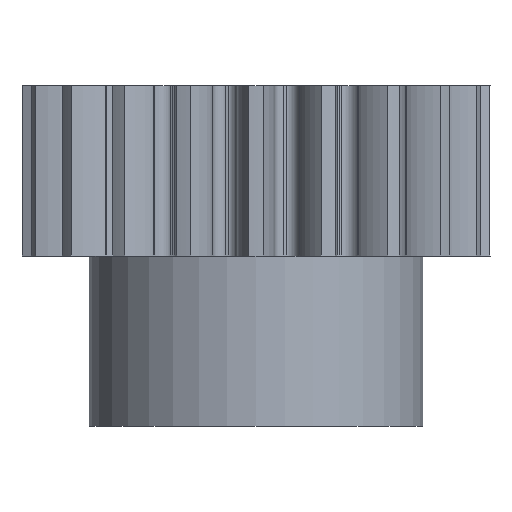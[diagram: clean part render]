
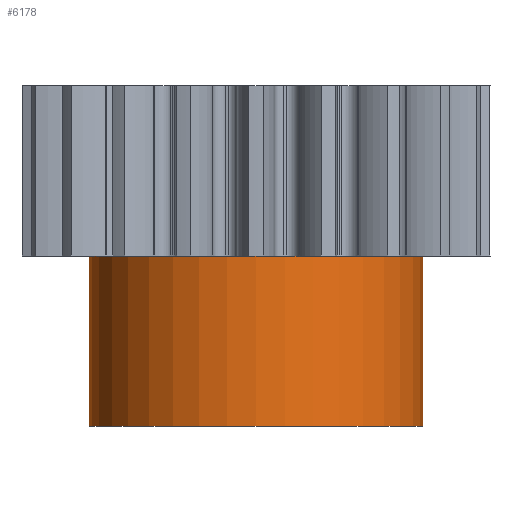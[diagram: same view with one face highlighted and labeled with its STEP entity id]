
A CAD part, front view. The second image highlights one B-rep face of the part: STEP entity #6178.
In plain terms, the highlighted cylindrical face has radius 6.223 mm (diameter 12.446 mm), a partial arc.
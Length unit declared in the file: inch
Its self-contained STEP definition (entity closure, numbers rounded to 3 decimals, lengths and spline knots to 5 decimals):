
#1992 = DIRECTION ( 'NONE',  ( -1., 0., 0. ) ) ;
#2017 = DIRECTION ( 'NONE',  ( 1., 0., 0. ) ) ;
#3910 = CIRCLE ( 'NONE', #18657, 0.245 ) ;
#4239 = ORIENTED_EDGE ( 'NONE', *, *, #11511, .T. ) ;
#4697 = VERTEX_POINT ( 'NONE', #12927 ) ;
#5117 = DIRECTION ( 'NONE',  ( 0., 0., -1. ) ) ;
#6110 = CARTESIAN_POINT ( 'NONE',  ( -0.245, 0., -0.25 ) ) ;
#6178 = ADVANCED_FACE ( 'NONE', ( #11613 ), #12078, .T. ) ;
#6433 = DIRECTION ( 'NONE',  ( 0., 0., -1. ) ) ;
#6507 = EDGE_CURVE ( 'NONE', #7926, #15535, #15950, .T. ) ;
#6752 = ORIENTED_EDGE ( 'NONE', *, *, #18623, .F. ) ;
#6958 = DIRECTION ( 'NONE',  ( 0., 0., 1. ) ) ;
#7472 = LINE ( 'NONE', #6110, #18726 ) ;
#7541 = DIRECTION ( 'NONE',  ( 0., 0., 1. ) ) ;
#7799 = AXIS2_PLACEMENT_3D ( 'NONE', #8048, #13913, #2017 ) ;
#7926 = VERTEX_POINT ( 'NONE', #17728 ) ;
#8022 = DIRECTION ( 'NONE',  ( -1., 0., 0. ) ) ;
#8048 = CARTESIAN_POINT ( 'NONE',  ( 0., 0., -0.25 ) ) ;
#9307 = CARTESIAN_POINT ( 'NONE',  ( 0., 0., 0. ) ) ;
#9374 = CARTESIAN_POINT ( 'NONE',  ( 0., 0., -0.25 ) ) ;
#9933 = CARTESIAN_POINT ( 'NONE',  ( 0.245, 0., 0. ) ) ;
#9965 = VECTOR ( 'NONE', #6958, 39.37008 ) ;
#9970 = CARTESIAN_POINT ( 'NONE',  ( 0.245, 0., -0.25 ) ) ;
#11143 = EDGE_CURVE ( 'NONE', #4697, #17807, #7472, .T. ) ;
#11187 = AXIS2_PLACEMENT_3D ( 'NONE', #9374, #5117, #8022 ) ;
#11511 = EDGE_CURVE ( 'NONE', #15535, #17807, #3910, .T. ) ;
#11613 = FACE_OUTER_BOUND ( 'NONE', #12774, .T. ) ;
#12078 = CYLINDRICAL_SURFACE ( 'NONE', #7799, 0.245 ) ;
#12774 = EDGE_LOOP ( 'NONE', ( #13505, #6752, #18115, #4239 ) ) ;
#12927 = CARTESIAN_POINT ( 'NONE',  ( -0.245, 0., -0.25 ) ) ;
#13505 = ORIENTED_EDGE ( 'NONE', *, *, #11143, .F. ) ;
#13913 = DIRECTION ( 'NONE',  ( 0., 0., 1. ) ) ;
#14724 = CIRCLE ( 'NONE', #11187, 0.245 ) ;
#15535 = VERTEX_POINT ( 'NONE', #9933 ) ;
#15950 = LINE ( 'NONE', #9970, #9965 ) ;
#16664 = CARTESIAN_POINT ( 'NONE',  ( -0.245, 0., 0. ) ) ;
#17728 = CARTESIAN_POINT ( 'NONE',  ( 0.245, 0., -0.25 ) ) ;
#17807 = VERTEX_POINT ( 'NONE', #16664 ) ;
#18115 = ORIENTED_EDGE ( 'NONE', *, *, #6507, .T. ) ;
#18623 = EDGE_CURVE ( 'NONE', #7926, #4697, #14724, .T. ) ;
#18657 = AXIS2_PLACEMENT_3D ( 'NONE', #9307, #6433, #1992 ) ;
#18726 = VECTOR ( 'NONE', #7541, 39.37008 ) ;
